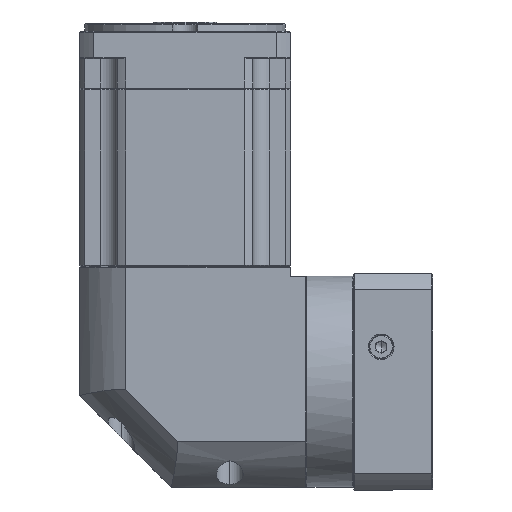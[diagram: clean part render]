
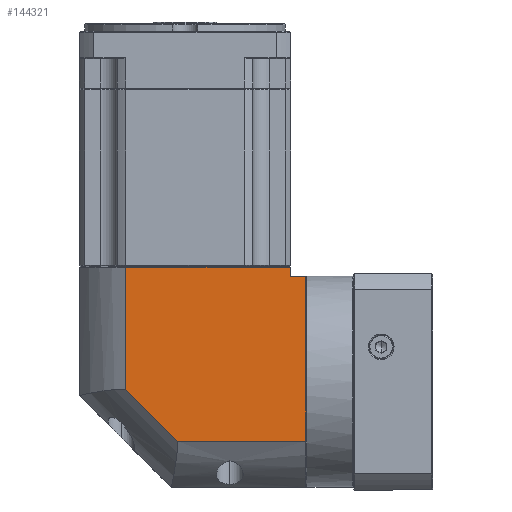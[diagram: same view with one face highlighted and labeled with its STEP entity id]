
A CAD part, left-side view. The second image highlights one B-rep face of the part: STEP entity #144321.
In plain terms, the highlighted planar face has unit normal (-1, 0, 0).
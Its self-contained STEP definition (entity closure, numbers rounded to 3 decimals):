
#2321 = EDGE_LOOP ( 'NONE', ( #150112, #78915, #58144, #73090, #100957, #11561, #86880 ) ) ;
#9044 = CARTESIAN_POINT ( 'NONE',  ( -244.861, -100.857, 96.558 ) ) ;
#11561 = ORIENTED_EDGE ( 'NONE', *, *, #157548, .T. ) ;
#14509 = EDGE_CURVE ( 'NONE', #88567, #135667, #91527, .T. ) ;
#23273 = VERTEX_POINT ( 'NONE', #9044 ) ;
#26770 = CARTESIAN_POINT ( 'NONE',  ( -244.861, -92.457, -18.442 ) ) ;
#32765 = DIRECTION ( 'NONE',  ( 0., -1., 0. ) ) ;
#34415 = DIRECTION ( 'NONE',  ( 0., 1., 0. ) ) ;
#40640 = LINE ( 'NONE', #104710, #105677 ) ;
#41935 = CARTESIAN_POINT ( 'NONE',  ( -244.861, -30.896, 6.658 ) ) ;
#45483 = CARTESIAN_POINT ( 'NONE',  ( -244.861, -30.896, 6.658 ) ) ;
#48449 = VECTOR ( 'NONE', #32765, 1000. ) ;
#50448 = CARTESIAN_POINT ( 'NONE',  ( -244.861, -2.557, 34.996 ) ) ;
#50912 = AXIS2_PLACEMENT_3D ( 'NONE', #153553, #75804, #166562 ) ;
#50941 = LINE ( 'NONE', #59217, #120032 ) ;
#53813 = VECTOR ( 'NONE', #34415, 1000. ) ;
#55006 = DIRECTION ( 'NONE',  ( 0., 0.707, 0.707 ) ) ;
#55844 = EDGE_CURVE ( 'NONE', #135667, #62298, #50941, .T. ) ;
#58144 = ORIENTED_EDGE ( 'NONE', *, *, #158299, .F. ) ;
#59217 = CARTESIAN_POINT ( 'NONE',  ( -244.861, -2.557, 108.058 ) ) ;
#62298 = VERTEX_POINT ( 'NONE', #154174 ) ;
#62303 = VECTOR ( 'NONE', #143625, 1000. ) ;
#67329 = CARTESIAN_POINT ( 'NONE',  ( -244.861, -100.857, 108.058 ) ) ;
#71592 = CARTESIAN_POINT ( 'NONE',  ( -244.861, -100.857, 6.658 ) ) ;
#73090 = ORIENTED_EDGE ( 'NONE', *, *, #166708, .F. ) ;
#75804 = DIRECTION ( 'NONE',  ( 1., 0., 0. ) ) ;
#78915 = ORIENTED_EDGE ( 'NONE', *, *, #14509, .F. ) ;
#86880 = ORIENTED_EDGE ( 'NONE', *, *, #161788, .F. ) ;
#88567 = VERTEX_POINT ( 'NONE', #45483 ) ;
#91527 = LINE ( 'NONE', #41935, #156508 ) ;
#92669 = DIRECTION ( 'NONE',  ( 0., 1., 0. ) ) ;
#96858 = LINE ( 'NONE', #26770, #62303 ) ;
#99352 = VERTEX_POINT ( 'NONE', #109387 ) ;
#100957 = ORIENTED_EDGE ( 'NONE', *, *, #124316, .T. ) ;
#104710 = CARTESIAN_POINT ( 'NONE',  ( -244.861, -92.457, 96.558 ) ) ;
#105677 = VECTOR ( 'NONE', #92669, 1000. ) ;
#109387 = CARTESIAN_POINT ( 'NONE',  ( -244.861, -92.457, 96.558 ) ) ;
#112229 = CARTESIAN_POINT ( 'NONE',  ( -244.861, 22.543, 6.658 ) ) ;
#120032 = VECTOR ( 'NONE', #149949, 1000. ) ;
#122671 = FACE_OUTER_BOUND ( 'NONE', #2321, .T. ) ;
#124316 = EDGE_CURVE ( 'NONE', #23273, #99352, #40640, .T. ) ;
#126553 = VERTEX_POINT ( 'NONE', #159477 ) ;
#135667 = VERTEX_POINT ( 'NONE', #50448 ) ;
#142299 = VERTEX_POINT ( 'NONE', #71592 ) ;
#143625 = DIRECTION ( 'NONE',  ( 0., 0., 1. ) ) ;
#144321 = ADVANCED_FACE ( 'NONE', ( #122671 ), #152989, .F. ) ;
#144683 = VECTOR ( 'NONE', #159226, 1000. ) ;
#148701 = LINE ( 'NONE', #67329, #144683 ) ;
#149091 = CARTESIAN_POINT ( 'NONE',  ( -244.861, 22.543, 101.558 ) ) ;
#149949 = DIRECTION ( 'NONE',  ( 0., 0., 1. ) ) ;
#150112 = ORIENTED_EDGE ( 'NONE', *, *, #55844, .F. ) ;
#151944 = LINE ( 'NONE', #149091, #48449 ) ;
#152989 = PLANE ( 'NONE',  #50912 ) ;
#153196 = LINE ( 'NONE', #112229, #53813 ) ;
#153553 = CARTESIAN_POINT ( 'NONE',  ( -244.861, 22.543, 108.058 ) ) ;
#154174 = CARTESIAN_POINT ( 'NONE',  ( -244.861, -2.557, 101.558 ) ) ;
#156508 = VECTOR ( 'NONE', #55006, 1000. ) ;
#157548 = EDGE_CURVE ( 'NONE', #99352, #126553, #96858, .T. ) ;
#158299 = EDGE_CURVE ( 'NONE', #142299, #88567, #153196, .T. ) ;
#159226 = DIRECTION ( 'NONE',  ( 0., 0., -1. ) ) ;
#159477 = CARTESIAN_POINT ( 'NONE',  ( -244.861, -92.457, 101.558 ) ) ;
#161788 = EDGE_CURVE ( 'NONE', #62298, #126553, #151944, .T. ) ;
#166562 = DIRECTION ( 'NONE',  ( 0., 1., 0. ) ) ;
#166708 = EDGE_CURVE ( 'NONE', #23273, #142299, #148701, .T. ) ;
